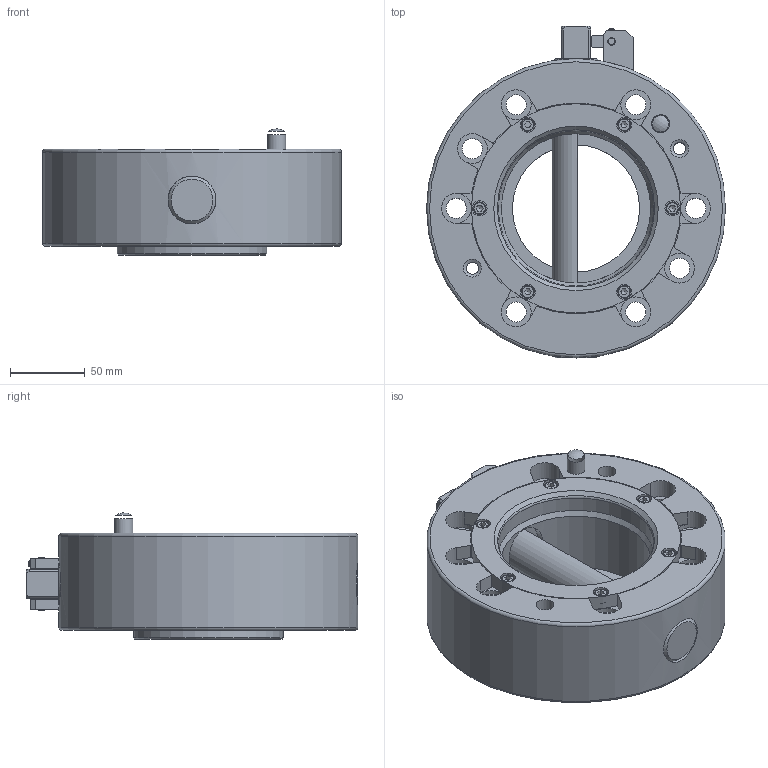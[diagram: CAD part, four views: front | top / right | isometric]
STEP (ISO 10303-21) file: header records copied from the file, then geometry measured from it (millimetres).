
FILE_DESCRIPTION(/* description */ (''),/* implementation_level */ '2;1');
FILE_NAME(/* name */ '\\dc01\daten\CAD\Standard\Daten\3D-Datenbank\Webseite 2020\SWS\200\G-SWS200-2O-N-M12.stp',/* time_stamp */ '2020-05-05T13:17:33+02:00',/* author */ ('ysplieth'),/* organization */ (''),/* preprocessor_version */ 'ST-DEVELOPER v17',/* originating_system */ 'Autodesk Inventor 2018',/* authorisation */ '');
FILE_SCHEMA (('AUTOMOTIVE_DESIGN { 1 0 10303 214 3 1 1 }'));
Length unit declared in the file: millimetre
Products named in the file (1): G-SWS200-2O-N-M12
Bounding box: 200 x 222 x 84.33 mm (x, y, z)
Volume: 1489700 mm3; surface area: 239118.1 mm2
Topology: 17 solids, 17 shells, 371 faces, 1036 edges, 719 vertices
Faces by surface type: plane 169, cylinder 128, cone 52, torus 20, sphere 2
Full cylindrical faces by diameter (mm): 3.242 x2, 3.3 x1, 4 x3, 4.134 x6, 4.5 x2, 5 x9, 5.1 x2, 5.5 x7, 6.647 x1, 7 x2, 8 x5, 8.5 x6, 9 x1, 10 x9, 12 x6, 13.5 x8, 20 x8, 32 x6, 85 x1, 100 x2, 104 x1, 120 x2, 140 x1, 200 x1
Entity records: 13404 total; most frequent: CARTESIAN_POINT 3108, DIRECTION 2121, ORIENTED_EDGE 2036, EDGE_CURVE 1018, AXIS2_PLACEMENT_3D 845, VERTEX_POINT 719, EDGE_LOOP 473, CIRCLE 473
